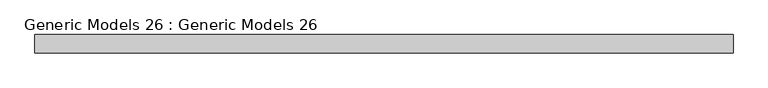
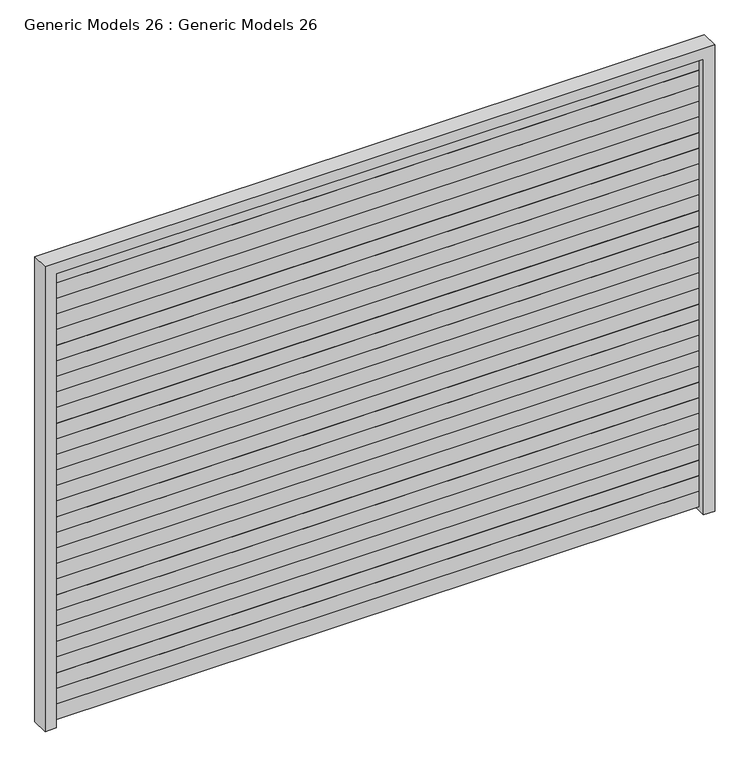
"""IFC4 building model written with IfcOpenShell, lengths in millimetres: proxy geometry, Generic Models 26 : Generic Models 26."""

from ifc_helpers import new_model, si_unit, frame, origin, place, context, project, spatial, polyline, outline, extrude, source, transform, mapped, element, save


def generic_models_26_generic_models_26_6b175dbb(model_context):
    return source(origin(), model_context, "Body", "SweptSolid", [
        extrude(outline(polyline([(-4200.6899321, -2484.1819699), (-7100.6899321, -2484.1819699), (-7100.6899321, -2442.1502651), (-4200.6899321, -2442.1502651), (-4200.6899321, -2484.1819699)])), frame((0.0, 0.0, 9.141345), z_axis=(0.0, 0.0, 1.0), x_axis=(1.0, 0.0, 0.0)), (0.0, 0.0, 1.0), 73.8227122),
        extrude(outline(polyline([(-4200.6899321, -2484.1819699), (-7100.6899321, -2484.1819699), (-7100.6899321, -2442.1502651), (-4200.6899321, -2442.1502651), (-4200.6899321, -2484.1819699)])), frame((0.0, 0.0, 82.9640573), z_axis=(0.0, 0.0, 1.0), x_axis=(1.0, 0.0, 0.0)), (0.0, 0.0, 1.0), 73.8227122),
        extrude(outline(polyline([(-4200.6899321, -2484.1819699), (-7100.6899321, -2484.1819699), (-7100.6899321, -2442.1502651), (-4200.6899321, -2442.1502651), (-4200.6899321, -2484.1819699)])), frame((0.0, 0.0, 156.7867695), z_axis=(0.0, 0.0, 1.0), x_axis=(1.0, 0.0, 0.0)), (0.0, 0.0, 1.0), 73.8227122),
        extrude(outline(polyline([(-4200.6899321, -2484.1819699), (-7100.6899321, -2484.1819699), (-7100.6899321, -2442.1502651), (-4200.6899321, -2442.1502651), (-4200.6899321, -2484.1819699)])), frame((0.0, 0.0, 230.6094817), z_axis=(0.0, 0.0, 1.0), x_axis=(1.0, 0.0, 0.0)), (0.0, 0.0, 1.0), 73.8227122),
        extrude(outline(polyline([(-4200.6899321, -2484.1819699), (-7100.6899321, -2484.1819699), (-7100.6899321, -2442.1502651), (-4200.6899321, -2442.1502651), (-4200.6899321, -2484.1819699)])), frame((0.0, 0.0, 304.432194), z_axis=(0.0, 0.0, 1.0), x_axis=(1.0, 0.0, 0.0)), (0.0, 0.0, 1.0), 73.8227122),
        extrude(outline(polyline([(-4200.6899321, -2484.1819699), (-7100.6899321, -2484.1819699), (-7100.6899321, -2442.1502651), (-4200.6899321, -2442.1502651), (-4200.6899321, -2484.1819699)])), frame((0.0, 0.0, 378.2549062), z_axis=(0.0, 0.0, 1.0), x_axis=(1.0, 0.0, 0.0)), (0.0, 0.0, 1.0), 73.8227122),
        extrude(outline(polyline([(-4200.6899321, -2484.1819699), (-7100.6899321, -2484.1819699), (-7100.6899321, -2442.1502651), (-4200.6899321, -2442.1502651), (-4200.6899321, -2484.1819699)])), frame((0.0, 0.0, 452.0776185), z_axis=(0.0, 0.0, 1.0), x_axis=(1.0, 0.0, 0.0)), (0.0, 0.0, 1.0), 73.8227122),
        extrude(outline(polyline([(-4200.6899321, -2484.1819699), (-7100.6899321, -2484.1819699), (-7100.6899321, -2442.1502651), (-4200.6899321, -2442.1502651), (-4200.6899321, -2484.1819699)])), frame((0.0, 0.0, 525.9003307), z_axis=(0.0, 0.0, 1.0), x_axis=(1.0, 0.0, 0.0)), (0.0, 0.0, 1.0), 73.8227122),
        extrude(outline(polyline([(-4200.6899321, -2484.1819699), (-7100.6899321, -2484.1819699), (-7100.6899321, -2442.1502651), (-4200.6899321, -2442.1502651), (-4200.6899321, -2484.1819699)])), frame((0.0, 0.0, 599.7230429), z_axis=(0.0, 0.0, 1.0), x_axis=(1.0, 0.0, 0.0)), (0.0, 0.0, 1.0), 73.8227122),
        extrude(outline(polyline([(-4200.6899321, -2484.1819699), (-7100.6899321, -2484.1819699), (-7100.6899321, -2442.1502651), (-4200.6899321, -2442.1502651), (-4200.6899321, -2484.1819699)])), frame((0.0, 0.0, 673.5457552), z_axis=(0.0, 0.0, 1.0), x_axis=(1.0, 0.0, 0.0)), (0.0, 0.0, 1.0), 73.8227122),
        extrude(outline(polyline([(-4200.6899321, -2484.1819699), (-7100.6899321, -2484.1819699), (-7100.6899321, -2442.1502651), (-4200.6899321, -2442.1502651), (-4200.6899321, -2484.1819699)])), frame((0.0, 0.0, 747.3684674), z_axis=(0.0, 0.0, 1.0), x_axis=(1.0, 0.0, 0.0)), (0.0, 0.0, 1.0), 73.8227122),
        extrude(outline(polyline([(-4200.6899321, -2484.1819699), (-7100.6899321, -2484.1819699), (-7100.6899321, -2442.1502651), (-4200.6899321, -2442.1502651), (-4200.6899321, -2484.1819699)])), frame((0.0, 0.0, 821.1911797), z_axis=(0.0, 0.0, 1.0), x_axis=(1.0, 0.0, 0.0)), (0.0, 0.0, 1.0), 73.8227122),
        extrude(outline(polyline([(-4200.6899321, -2484.1819699), (-7100.6899321, -2484.1819699), (-7100.6899321, -2442.1502651), (-4200.6899321, -2442.1502651), (-4200.6899321, -2484.1819699)])), frame((0.0, 0.0, 895.0138919), z_axis=(0.0, 0.0, 1.0), x_axis=(1.0, 0.0, 0.0)), (0.0, 0.0, 1.0), 73.8227122),
        extrude(outline(polyline([(-4200.6899321, -2484.1819699), (-7100.6899321, -2484.1819699), (-7100.6899321, -2442.1502651), (-4200.6899321, -2442.1502651), (-4200.6899321, -2484.1819699)])), frame((0.0, 0.0, 968.8366041), z_axis=(0.0, 0.0, 1.0), x_axis=(1.0, 0.0, 0.0)), (0.0, 0.0, 1.0), 73.8227122),
        extrude(outline(polyline([(-4200.6899321, -2484.1819699), (-7100.6899321, -2484.1819699), (-7100.6899321, -2442.1502651), (-4200.6899321, -2442.1502651), (-4200.6899321, -2484.1819699)])), frame((0.0, 0.0, 1042.6593164), z_axis=(0.0, 0.0, 1.0), x_axis=(1.0, 0.0, 0.0)), (0.0, 0.0, 1.0), 73.8227122),
        extrude(outline(polyline([(-4200.6899321, -2484.1819699), (-7100.6899321, -2484.1819699), (-7100.6899321, -2442.1502651), (-4200.6899321, -2442.1502651), (-4200.6899321, -2484.1819699)])), frame((0.0, 0.0, 1116.4820286), z_axis=(0.0, 0.0, 1.0), x_axis=(1.0, 0.0, 0.0)), (0.0, 0.0, 1.0), 73.8227122),
        extrude(outline(polyline([(-4200.6899321, -2484.1819699), (-7100.6899321, -2484.1819699), (-7100.6899321, -2442.1502651), (-4200.6899321, -2442.1502651), (-4200.6899321, -2484.1819699)])), frame((0.0, 0.0, 1190.3047409), z_axis=(0.0, 0.0, 1.0), x_axis=(1.0, 0.0, 0.0)), (0.0, 0.0, 1.0), 73.8227122),
        extrude(outline(polyline([(-4200.6899321, -2484.1819699), (-7100.6899321, -2484.1819699), (-7100.6899321, -2442.1502651), (-4200.6899321, -2442.1502651), (-4200.6899321, -2484.1819699)])), frame((0.0, 0.0, 1264.1274531), z_axis=(0.0, 0.0, 1.0), x_axis=(1.0, 0.0, 0.0)), (0.0, 0.0, 1.0), 73.8227122),
        extrude(outline(polyline([(-4200.6899321, -2484.1819699), (-7100.6899321, -2484.1819699), (-7100.6899321, -2442.1502651), (-4200.6899321, -2442.1502651), (-4200.6899321, -2484.1819699)])), frame((0.0, 0.0, 1337.9501654), z_axis=(0.0, 0.0, 1.0), x_axis=(1.0, 0.0, 0.0)), (0.0, 0.0, 1.0), 73.8227122),
        extrude(outline(polyline([(-4200.6899321, -2484.1819699), (-7100.6899321, -2484.1819699), (-7100.6899321, -2442.1502651), (-4200.6899321, -2442.1502651), (-4200.6899321, -2484.1819699)])), frame((0.0, 0.0, 1411.7728776), z_axis=(0.0, 0.0, 1.0), x_axis=(1.0, 0.0, 0.0)), (0.0, 0.0, 1.0), 73.8227122),
        extrude(outline(polyline([(-4200.6899321, -2484.1819699), (-7100.6899321, -2484.1819699), (-7100.6899321, -2442.1502651), (-4200.6899321, -2442.1502651), (-4200.6899321, -2484.1819699)])), frame((0.0, 0.0, 1485.5955898), z_axis=(0.0, 0.0, 1.0), x_axis=(1.0, 0.0, 0.0)), (0.0, 0.0, 1.0), 73.8227122),
        extrude(outline(polyline([(-4200.6899321, -2484.1819699), (-7100.6899321, -2484.1819699), (-7100.6899321, -2442.1502651), (-4200.6899321, -2442.1502651), (-4200.6899321, -2484.1819699)])), frame((0.0, 0.0, 1559.4183021), z_axis=(0.0, 0.0, 1.0), x_axis=(1.0, 0.0, 0.0)), (0.0, 0.0, 1.0), 73.8227122),
        extrude(outline(polyline([(-4200.6899321, -2484.1819699), (-7100.6899321, -2484.1819699), (-7100.6899321, -2442.1502651), (-4200.6899321, -2442.1502651), (-4200.6899321, -2484.1819699)])), frame((0.0, 0.0, 1633.2410143), z_axis=(0.0, 0.0, 1.0), x_axis=(1.0, 0.0, 0.0)), (0.0, 0.0, 1.0), 73.8227122),
        extrude(outline(polyline([(-4200.6899321, -2484.1819699), (-7100.6899321, -2484.1819699), (-7100.6899321, -2442.1502651), (-4200.6899321, -2442.1502651), (-4200.6899321, -2484.1819699)])), frame((0.0, 0.0, 1707.0637266), z_axis=(0.0, 0.0, 1.0), x_axis=(1.0, 0.0, 0.0)), (0.0, 0.0, 1.0), 73.8227122),
        extrude(outline(polyline([(-4200.6899321, -2484.1819699), (-7100.6899321, -2484.1819699), (-7100.6899321, -2442.1502651), (-4200.6899321, -2442.1502651), (-4200.6899321, -2484.1819699)])), frame((0.0, 0.0, 1780.8864388), z_axis=(0.0, 0.0, 1.0), x_axis=(1.0, 0.0, 0.0)), (0.0, 0.0, 1.0), 73.8227122),
        extrude(outline(polyline([(-4200.6899321, -2484.1819699), (-7100.6899321, -2484.1819699), (-7100.6899321, -2442.1502651), (-4200.6899321, -2442.1502651), (-4200.6899321, -2484.1819699)])), frame((0.0, 0.0, 1854.709151), z_axis=(0.0, 0.0, 1.0), x_axis=(1.0, 0.0, 0.0)), (0.0, 0.0, 1.0), 73.8227122),
        extrude(outline(polyline([(-4200.6899321, -2484.1819699), (-7100.6899321, -2484.1819699), (-7100.6899321, -2442.1502651), (-4200.6899321, -2442.1502651), (-4200.6899321, -2484.1819699)])), frame((0.0, 0.0, 1928.5318633), z_axis=(0.0, 0.0, 1.0), x_axis=(1.0, 0.0, 0.0)), (0.0, 0.0, 1.0), 73.8227122),
        extrude(outline(polyline([(-4200.6899321, -2484.1819699), (-7100.6899321, -2484.1819699), (-7100.6899321, -2442.1502651), (-4200.6899321, -2442.1502651), (-4200.6899321, -2484.1819699)])), frame((0.0, 0.0, 2002.3545755), z_axis=(0.0, 0.0, 1.0), x_axis=(1.0, 0.0, 0.0)), (0.0, 0.0, 1.0), 73.8227122),
        extrude(outline(polyline([(-4200.6899321, -2484.1819699), (-7100.6899321, -2484.1819699), (-7100.6899321, -2442.1502651), (-4200.6899321, -2442.1502651), (-4200.6899321, -2484.1819699)])), frame((0.0, 0.0, 2076.1772878), z_axis=(0.0, 0.0, 1.0), x_axis=(1.0, 0.0, 0.0)), (0.0, 0.0, 1.0), 73.8227122),
        extrude(outline(polyline([(2200.0, -4150.6899321), (2200.0, -7150.6899321), (0.0, -7150.6899321), (0.0, -7100.6899321), (2150.0, -7100.6899321), (2150.0, -4200.6899321), (-6.8518177, -4200.6899321), (-6.8518177, -4150.6899321), (2200.0, -4150.6899321)])), frame((0.0, -2520.6540008, 0.0), z_axis=(0.0, 1.0, 0.0), x_axis=(0.0, 0.0, 1.0)), (0.0, 0.0, 1.0), 78.5037357),
    ])


if __name__ == "__main__":
    model = new_model("IFC4")
    model_context = context("Model", 3, world=origin())
    ifc_project = project(units=[si_unit("LENGTHUNIT", "METRE", prefix="MILLI")], contexts=[model_context])
    site = spatial("IfcSite", under=ifc_project)
    building = spatial("IfcBuilding", under=site)
    placement = place(None, origin())
    generic_models_26_generic_models_26_shape = generic_models_26_generic_models_26_6b175dbb(model_context)
    element("IfcBuildingElementProxy", 1, Name="Generic Models 26 : Generic Models 26", ObjectType="Generic Models 26 : Generic Models 26", at=placement, inside=building, context=model_context, shape_type="MappedRepresentation", body=[
        mapped(generic_models_26_generic_models_26_shape, transform((0.0, 0.0, 0.0), x_axis=(1.0, 0.0, 0.0), y_axis=(0.0, 1.0, 0.0), z_axis=(0.0, 0.0, 1.0))),
    ])
    save(model, "model.ifc")
